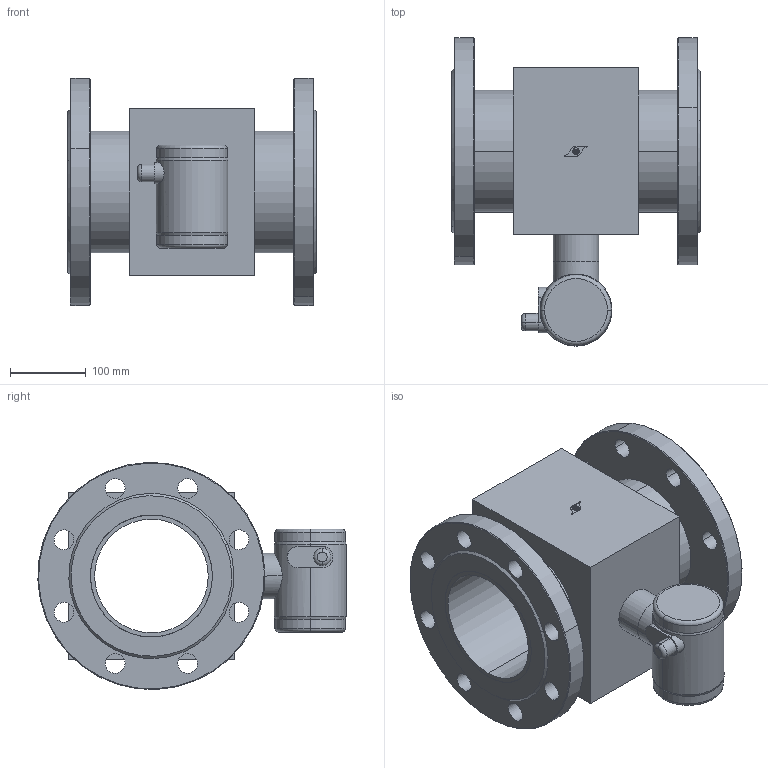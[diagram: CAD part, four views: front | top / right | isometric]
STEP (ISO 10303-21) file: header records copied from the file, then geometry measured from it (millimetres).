
FILE_DESCRIPTION (( 'STEP AP203' ), '1' );
FILE_NAME ('Ïèòåðôëîó ÐÑ150 äëÿ ñàéòà.STEP', '2015-11-03T10:11:50', ( '' ), ( '' ), 'SwSTEP 2.0', 'SolidWorks 2015', '' );
FILE_SCHEMA (( 'CONFIG_CONTROL_DESIGN' ));
Length unit declared in the file: millimetre
Products named in the file (8): 婑鳧氀 襞旂 12820-80_150-25; Äåòàëü3^Ïèòåðôëîó ÐÑ150; 鏝鋋瘔; Ïèòåðôëîó ÐÑ150 äëÿ ñàéòà; 婑鳧氀 襞旂 12820-80
Assembly tree (4 placements, depth 2):
  Ïèòåðôëîó ÐÑ150 äëÿ ñàéòà
    婑鳧氀 襞旂 12820-80_150-25  x2
    Äåòàëü3^Ïèòåðôëîó ÐÑ150
    鏝鋋瘔
  婑鳧氀 襞旂 12820-80
  婑鳧氀 襞旂 12820-80
  Äåòàëü3^Ïèòåðôëîó ÐÑ150
  鏝鋋瘔
Bounding box: 328 x 406.86 x 299.71 mm (x, y, z)
Volume: 9203224.6 mm3; surface area: 810459.4 mm2
Topology: 4 solids, 4 shells, 153 faces, 365 edges, 236 vertices
Faces by surface type: cylinder 76, plane 47, cone 16, bspline 8, torus 6
Entity records: 4633 total; most frequent: CARTESIAN_POINT 939, DIRECTION 651, ORIENTED_EDGE 582, EDGE_CURVE 291, AXIS2_PLACEMENT_3D 256, VERTEX_POINT 188, EDGE_LOOP 159, LINE 139
